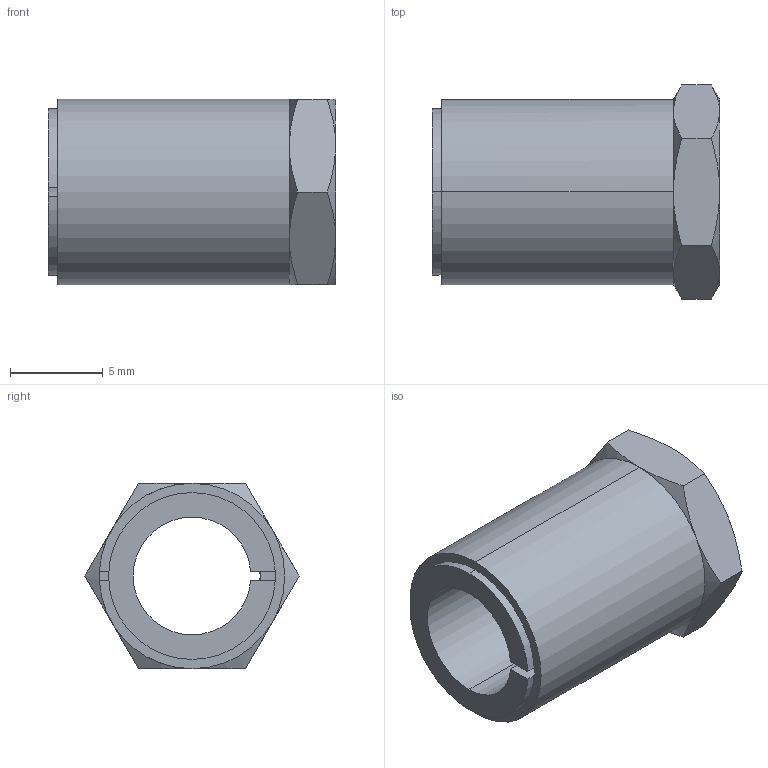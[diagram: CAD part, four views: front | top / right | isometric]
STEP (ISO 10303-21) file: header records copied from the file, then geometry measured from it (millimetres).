
FILE_DESCRIPTION (( 'STEP AP203' ), '1' );
FILE_NAME ('KBS 57 - 6,35 x 10.STEP', '2015-07-05T18:30:28', ( '' ), ( '' ), 'SwSTEP 2.0', 'SolidWorks 2010', '' );
FILE_SCHEMA (( 'CONFIG_CONTROL_DESIGN' ));
Length unit declared in the file: millimetre
Products named in the file (1): KBS 57 - 6,35 x 10
Bounding box: 15.5 x 11.55 x 10 mm (x, y, z)
Volume: 718.4 mm3; surface area: 957.9 mm2
Topology: 1 solids, 1 shells, 41 faces, 99 edges, 60 vertices
Faces by surface type: plane 16, cone 15, cylinder 10
Entity records: 1349 total; most frequent: CARTESIAN_POINT 333, ORIENTED_EDGE 198, DIRECTION 196, EDGE_CURVE 99, AXIS2_PLACEMENT_3D 81, VERTEX_POINT 60, EDGE_LOOP 43, ADVANCED_FACE 41
